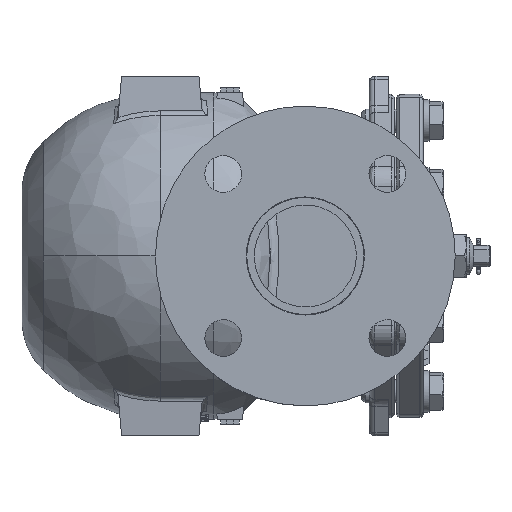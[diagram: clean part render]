
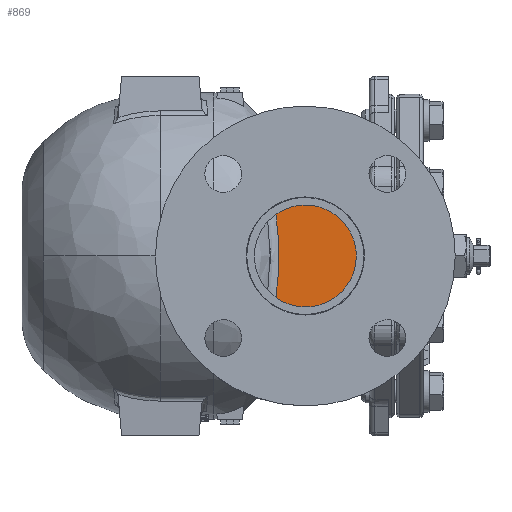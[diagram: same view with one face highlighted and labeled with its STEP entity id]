
A CAD part, left-side view. The second image highlights one B-rep face of the part: STEP entity #869.
In plain terms, the highlighted planar face has unit normal (-1, 0, 0) as drawn and (0, 1, 0) by its records, which use the part's own axes.
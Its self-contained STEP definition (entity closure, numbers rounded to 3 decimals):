
#869=ADVANCED_FACE('',(#4264),#4263,.T.);
#4263=PLANE('',#12451);
#4264=FACE_OUTER_BOUND('',#12452,.T.);
#12448=CARTESIAN_POINT('',(-110.087,61.5,-36.58));
#12449=DIRECTION('',(0.,1.,0.));
#12450=DIRECTION('',(0.,0.,1.));
#12451=AXIS2_PLACEMENT_3D('',#12448,#12449,#12450);
#12452=EDGE_LOOP('',(#20065,#20066,#20067,#20068,#20069,#20070,#20071,#20072,#20073));
#20065=ORIENTED_EDGE('',*,*,#24444,.T.);
#20066=ORIENTED_EDGE('',*,*,#23680,.T.);
#20067=ORIENTED_EDGE('',*,*,#24445,.F.);
#20068=ORIENTED_EDGE('',*,*,#24446,.F.);
#20069=ORIENTED_EDGE('',*,*,#24447,.F.);
#20070=ORIENTED_EDGE('',*,*,#24448,.F.);
#20071=ORIENTED_EDGE('',*,*,#24449,.F.);
#20072=ORIENTED_EDGE('',*,*,#24450,.F.);
#20073=ORIENTED_EDGE('',*,*,#23686,.T.);
#23680=EDGE_CURVE('',#27275,#27267,#27276,.T.);
#23686=EDGE_CURVE('',#27296,#27310,#27317,.T.);
#24444=EDGE_CURVE('',#27310,#27275,#32381,.T.);
#24445=EDGE_CURVE('',#32387,#27267,#32388,.T.);
#24446=EDGE_CURVE('',#32394,#32387,#32395,.T.);
#24447=EDGE_CURVE('',#32401,#32394,#32402,.T.);
#24448=EDGE_CURVE('',#32408,#32401,#32409,.T.);
#24449=EDGE_CURVE('',#32415,#32408,#32416,.T.);
#24450=EDGE_CURVE('',#27296,#32415,#32422,.T.);
#27267=VERTEX_POINT('',#44184);
#27275=VERTEX_POINT('',#44193);
#27276=(BOUNDED_CURVE() B_SPLINE_CURVE(3,(#44194,#44195,#44196,#44197,#44198,#44199),.UNSPECIFIED.,.F.,.F.) B_SPLINE_CURVE_WITH_KNOTS((4,1,1,4),(0.,5.947,10.002,17.3),.UNSPECIFIED.) CURVE() GEOMETRIC_REPRESENTATION_ITEM() RATIONAL_B_SPLINE_CURVE((1.,1.,1.,1.,1.,1.)) REPRESENTATION_ITEM('') );
#27296=VERTEX_POINT('',#44215);
#27310=VERTEX_POINT('',#44230);
#27317=(BOUNDED_CURVE() B_SPLINE_CURVE(3,(#44235,#44236,#44237,#44238,#44239,#44240),.UNSPECIFIED.,.F.,.F.) B_SPLINE_CURVE_WITH_KNOTS((4,1,1,4),(0.,7.569,12.705,17.3),.UNSPECIFIED.) CURVE() GEOMETRIC_REPRESENTATION_ITEM() RATIONAL_B_SPLINE_CURVE((1.,1.,1.,1.,1.,1.)) REPRESENTATION_ITEM('') );
#32381=(BOUNDED_CURVE() B_SPLINE_CURVE(3,(#50448,#50449,#50450,#50451,#50452,#50453,#50454,#50455,#50456,#50457),.UNSPECIFIED.,.F.,.F.) B_SPLINE_CURVE_WITH_KNOTS((4,2,2,2,4),(0.,0.25,0.5,0.75,1.),.UNSPECIFIED.) CURVE() GEOMETRIC_REPRESENTATION_ITEM() RATIONAL_B_SPLINE_CURVE((1.,1.,1.,1.,1.,1.,1.,1.,1.,1.)) REPRESENTATION_ITEM('') );
#32387=VERTEX_POINT('',#50458);
#32388=LINE('',#50459,#50460);
#32394=VERTEX_POINT('',#50462);
#32395=(BOUNDED_CURVE() B_SPLINE_CURVE(3,(#50463,#50464,#50465,#50466,#50467,#50468,#50469,#50470),.UNSPECIFIED.,.F.,.F.) B_SPLINE_CURVE_WITH_KNOTS((4,1,1,1,1,4),(23.835,27.852,33.716,36.648,41.779,46.909),.UNSPECIFIED.) CURVE() GEOMETRIC_REPRESENTATION_ITEM() RATIONAL_B_SPLINE_CURVE((1.,1.,1.,1.,1.,1.,1.,1.)) REPRESENTATION_ITEM('') );
#32401=VERTEX_POINT('',#50471);
#32402=(BOUNDED_CURVE() B_SPLINE_CURVE(3,(#50472,#50473,#50474,#50475,#50476,#50477,#50478),.UNSPECIFIED.,.F.,.F.) B_SPLINE_CURVE_WITH_KNOTS((4,1,1,1,4),(0.,8.429,15.759,21.256,23.835),.UNSPECIFIED.) CURVE() GEOMETRIC_REPRESENTATION_ITEM() RATIONAL_B_SPLINE_CURVE((1.,1.,1.,1.,1.,1.,1.)) REPRESENTATION_ITEM('') );
#32408=VERTEX_POINT('',#50479);
#32409=(BOUNDED_CURVE() B_SPLINE_CURVE(3,(#50480,#50481,#50482,#50483,#50484,#50485,#50486),.UNSPECIFIED.,.F.,.F.) B_SPLINE_CURVE_WITH_KNOTS((4,1,1,1,4),(0.,6.794,10.191,15.475,24.156),.UNSPECIFIED.) CURVE() GEOMETRIC_REPRESENTATION_ITEM() RATIONAL_B_SPLINE_CURVE((1.,1.,1.,1.,1.,1.,1.)) REPRESENTATION_ITEM('') );
#32415=VERTEX_POINT('',#50487);
#32416=(BOUNDED_CURVE() B_SPLINE_CURVE(3,(#50488,#50489,#50490,#50491,#50492,#50493,#50494),.UNSPECIFIED.,.F.,.F.) B_SPLINE_CURVE_WITH_KNOTS((4,1,1,1,4),(0.,8.177,12.798,18.131,22.753),.UNSPECIFIED.) CURVE() GEOMETRIC_REPRESENTATION_ITEM() RATIONAL_B_SPLINE_CURVE((1.,1.,1.,1.,1.,1.,1.)) REPRESENTATION_ITEM('') );
#32422=LINE('',#50495,#50496);
#44184=CARTESIAN_POINT('',(-76.,61.5,-27.482));
#44193=CARTESIAN_POINT('',(-59.638,61.5,-22.809));
#44194=CARTESIAN_POINT('',(-59.638,61.5,-22.809));
#44195=CARTESIAN_POINT('',(-61.282,61.5,-23.917));
#44196=CARTESIAN_POINT('',(-64.25,61.5,-25.478));
#44197=CARTESIAN_POINT('',(-69.769,61.5,-27.203));
#44198=CARTESIAN_POINT('',(-73.569,61.5,-27.571));
#44199=CARTESIAN_POINT('',(-76.,61.5,-27.482));
#44215=CARTESIAN_POINT('',(-76.,61.5,27.482));
#44230=CARTESIAN_POINT('',(-59.638,61.5,22.809));
#44235=CARTESIAN_POINT('',(-76.,61.5,27.482));
#44236=CARTESIAN_POINT('',(-73.479,61.5,27.574));
#44237=CARTESIAN_POINT('',(-69.226,61.5,27.141));
#44238=CARTESIAN_POINT('',(-63.751,61.5,25.252));
#44239=CARTESIAN_POINT('',(-60.909,61.5,23.665));
#44240=CARTESIAN_POINT('',(-59.638,61.5,22.809));
#50448=CARTESIAN_POINT('',(-59.638,61.5,22.809));
#50449=CARTESIAN_POINT('',(-60.293,61.5,19.061));
#50450=CARTESIAN_POINT('',(-60.726,61.5,15.26));
#50451=CARTESIAN_POINT('',(-61.287,61.5,7.614));
#50452=CARTESIAN_POINT('',(-61.413,61.5,3.785));
#50453=CARTESIAN_POINT('',(-61.411,61.5,-3.883));
#50454=CARTESIAN_POINT('',(-61.282,61.5,-7.699));
#50455=CARTESIAN_POINT('',(-60.723,61.5,-15.29));
#50456=CARTESIAN_POINT('',(-60.292,61.5,-19.065));
#50457=CARTESIAN_POINT('',(-59.638,61.5,-22.809));
#50458=CARTESIAN_POINT('',(-76.,61.5,-30.484));
#50459=CARTESIAN_POINT('',(-76.,61.5,-30.484));
#50460=VECTOR('',#50461,3.002);
#50461=DIRECTION('',(0.,0.,1.));
#50462=CARTESIAN_POINT('',(-96.651,61.5,-21.482));
#50463=CARTESIAN_POINT('',(-96.651,61.5,-21.482));
#50464=CARTESIAN_POINT('',(-95.708,61.5,-22.432));
#50465=CARTESIAN_POINT('',(-93.234,61.5,-24.618));
#50466=CARTESIAN_POINT('',(-89.602,61.5,-26.902));
#50467=CARTESIAN_POINT('',(-85.354,61.5,-28.786));
#50468=CARTESIAN_POINT('',(-81.118,61.5,-30.027));
#50469=CARTESIAN_POINT('',(-77.709,61.5,-30.428));
#50470=CARTESIAN_POINT('',(-76.,61.5,-30.484));
#50471=CARTESIAN_POINT('',(-105.5,61.5,0.));
#50472=CARTESIAN_POINT('',(-105.5,61.5,0.));
#50473=CARTESIAN_POINT('',(-105.501,61.5,-2.81));
#50474=CARTESIAN_POINT('',(-104.769,61.5,-8.062));
#50475=CARTESIAN_POINT('',(-102.013,61.5,-14.645));
#50476=CARTESIAN_POINT('',(-99.072,61.5,-18.881));
#50477=CARTESIAN_POINT('',(-97.257,61.5,-20.872));
#50478=CARTESIAN_POINT('',(-96.651,61.5,-21.482));
#50479=CARTESIAN_POINT('',(-96.424,61.5,21.709));
#50480=CARTESIAN_POINT('',(-96.424,61.5,21.709));
#50481=CARTESIAN_POINT('',(-98.036,61.5,20.118));
#50482=CARTESIAN_POINT('',(-100.186,61.5,17.462));
#50483=CARTESIAN_POINT('',(-102.724,61.5,12.962));
#50484=CARTESIAN_POINT('',(-104.832,61.5,7.548));
#50485=CARTESIAN_POINT('',(-105.501,61.5,2.894));
#50486=CARTESIAN_POINT('',(-105.5,61.5,0.));
#50487=CARTESIAN_POINT('',(-76.,61.5,30.484));
#50488=CARTESIAN_POINT('',(-76.,61.5,30.484));
#50489=CARTESIAN_POINT('',(-78.724,61.5,30.395));
#50490=CARTESIAN_POINT('',(-82.969,61.5,29.679));
#50491=CARTESIAN_POINT('',(-88.605,61.5,27.449));
#50492=CARTESIAN_POINT('',(-92.789,61.5,24.942));
#50493=CARTESIAN_POINT('',(-95.327,61.5,22.791));
#50494=CARTESIAN_POINT('',(-96.424,61.5,21.709));
#50495=CARTESIAN_POINT('',(-76.,61.5,27.482));
#50496=VECTOR('',#50497,3.002);
#50497=DIRECTION('',(0.,0.,1.));
